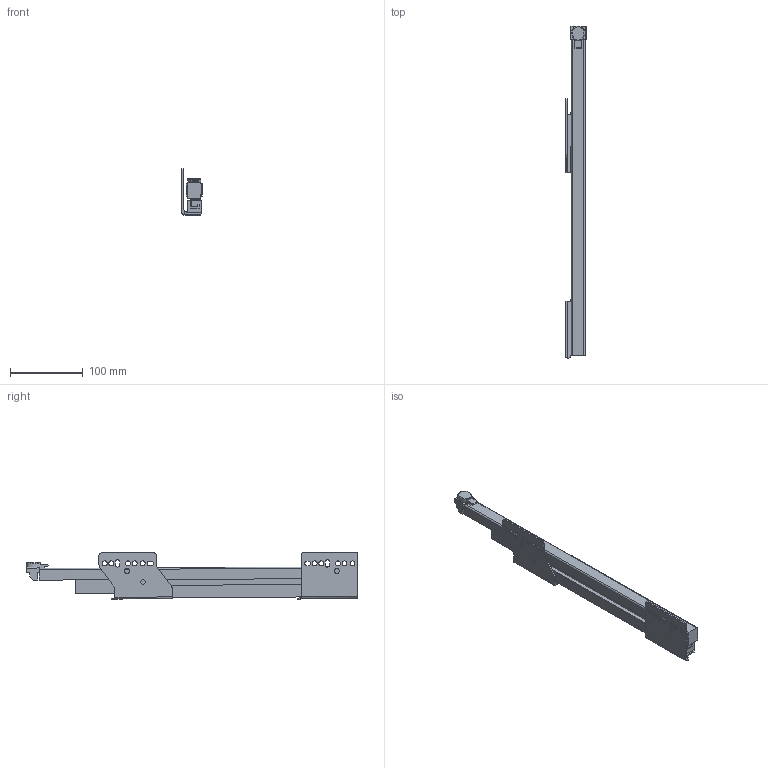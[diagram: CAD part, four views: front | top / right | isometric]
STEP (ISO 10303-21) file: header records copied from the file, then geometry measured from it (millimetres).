
FILE_DESCRIPTION (( 'STEP AP214' ), '1' );
FILE_NAME ('_IMOS_NOVA-Pro_KS_TL_EB29mm_LI_NL450.step', '2010-07-15T11:34:34', ( 'grass' ), ( '' ), 'SwSTEP 2.0', 'SolidWorks 2009', '' );
FILE_SCHEMA (( 'AUTOMOTIVE_DESIGN' ));
Length unit declared in the file: millimetre
Products named in the file (1): _IMOS_NOVA-Pro_KS_TL_EB29mm_LI_NL450
Bounding box: 27.9 x 455.56 x 64.46 mm (x, y, z)
Volume: 320059.4 mm3; surface area: 134769.6 mm2
Topology: 8 solids, 8 shells, 185 faces, 496 edges, 328 vertices
Faces by surface type: plane 116, cylinder 64, torus 5
Entity records: 5964 total; most frequent: CARTESIAN_POINT 1097, ORIENTED_EDGE 992, DIRECTION 972, EDGE_CURVE 496, LINE 350, VECTOR 350, VERTEX_POINT 328, AXIS2_PLACEMENT_3D 311
